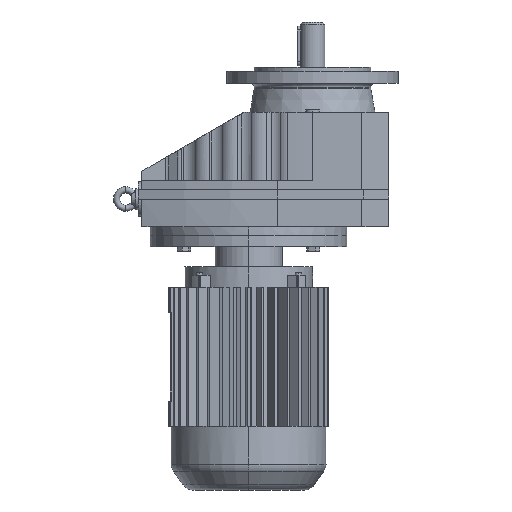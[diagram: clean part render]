
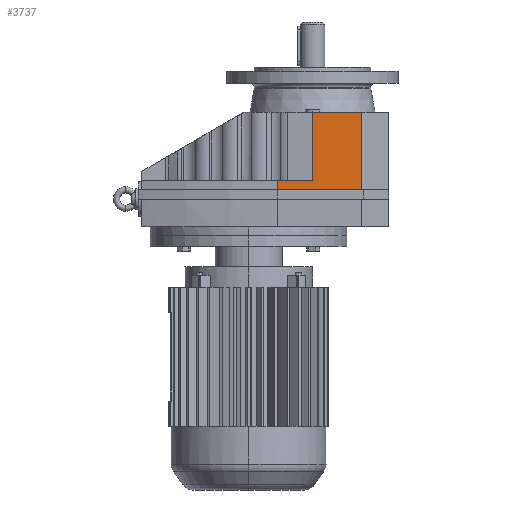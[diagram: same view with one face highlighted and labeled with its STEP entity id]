
A CAD part, left-side view. The second image highlights one B-rep face of the part: STEP entity #3737.
In plain terms, the highlighted planar face has unit normal (-1, 0, 0).
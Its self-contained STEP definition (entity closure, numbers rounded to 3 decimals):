
#59 = PLANE('',#60);
#60 = AXIS2_PLACEMENT_3D('',#61,#62,#63);
#61 = CARTESIAN_POINT('',(-245.684,-23.65,100.5));
#62 = DIRECTION('',(0.,0.,1.));
#63 = DIRECTION('',(1.,0.,0.));
#475 = VERTEX_POINT('',#476);
#476 = CARTESIAN_POINT('',(-78.,-52.,100.5));
#491 = CYLINDRICAL_SURFACE('',#492,221.596);
#492 = AXIS2_PLACEMENT_3D('',#493,#494,#495);
#493 = CARTESIAN_POINT('',(143.596,-52.,44.92));
#494 = DIRECTION('',(0.,0.,1.));
#495 = DIRECTION('',(1.,0.,0.));
#502 = EDGE_CURVE('',#475,#503,#505,.T.);
#503 = VERTEX_POINT('',#504);
#504 = CARTESIAN_POINT('',(-78.,-92.2,100.5));
#505 = SURFACE_CURVE('',#506,(#510,#517),.PCURVE_S1.);
#506 = LINE('',#507,#508);
#507 = CARTESIAN_POINT('',(-78.,-92.2,100.5));
#508 = VECTOR('',#509,1.);
#509 = DIRECTION('',(0.,-1.,0.));
#510 = PCURVE('',#59,#511);
#511 = DEFINITIONAL_REPRESENTATION('',(#512),#516);
#512 = LINE('',#513,#514);
#513 = CARTESIAN_POINT('',(167.684,-68.55));
#514 = VECTOR('',#515,1.);
#515 = DIRECTION('',(0.,-1.));
#516 = ( GEOMETRIC_REPRESENTATION_CONTEXT(2) 
PARAMETRIC_REPRESENTATION_CONTEXT() REPRESENTATION_CONTEXT('2D SPACE',''
  ) );
#517 = PCURVE('',#518,#523);
#518 = PLANE('',#519);
#519 = AXIS2_PLACEMENT_3D('',#520,#521,#522);
#520 = CARTESIAN_POINT('',(-78.,-92.2,100.5));
#521 = DIRECTION('',(1.,0.,0.));
#522 = DIRECTION('',(0.,0.,-1.));
#523 = DEFINITIONAL_REPRESENTATION('',(#524),#528);
#524 = LINE('',#525,#526);
#525 = CARTESIAN_POINT('',(0.,0.));
#526 = VECTOR('',#527,1.);
#527 = DIRECTION('',(0.,-1.));
#528 = ( GEOMETRIC_REPRESENTATION_CONTEXT(2) 
PARAMETRIC_REPRESENTATION_CONTEXT() REPRESENTATION_CONTEXT('2D SPACE',''
  ) );
#546 = PLANE('',#547);
#547 = AXIS2_PLACEMENT_3D('',#548,#549,#550);
#548 = CARTESIAN_POINT('',(-56.2,-114.,100.5));
#549 = DIRECTION('',(0.707,0.707,0.));
#550 = DIRECTION('',(-0.707,0.707,0.));
#1544 = PLANE('',#1545);
#1545 = AXIS2_PLACEMENT_3D('',#1546,#1547,#1548);
#1546 = CARTESIAN_POINT('',(-49.088,67.584,44.92));
#1547 = DIRECTION('',(0.,0.,1.));
#1548 = DIRECTION('',(-1.,0.,0.));
#2205 = PLANE('',#2206);
#2206 = AXIS2_PLACEMENT_3D('',#2207,#2208,#2209);
#2207 = CARTESIAN_POINT('',(-245.684,-23.65,37.376));
#2208 = DIRECTION('',(0.,0.,1.));
#2209 = DIRECTION('',(1.,0.,0.));
#3692 = EDGE_CURVE('',#503,#3693,#3695,.T.);
#3693 = VERTEX_POINT('',#3694);
#3694 = CARTESIAN_POINT('',(-78.,-92.2,37.376));
#3695 = SURFACE_CURVE('',#3696,(#3700,#3707),.PCURVE_S1.);
#3696 = LINE('',#3697,#3698);
#3697 = CARTESIAN_POINT('',(-78.,-92.2,100.5));
#3698 = VECTOR('',#3699,1.);
#3699 = DIRECTION('',(0.,0.,-1.));
#3700 = PCURVE('',#546,#3701);
#3701 = DEFINITIONAL_REPRESENTATION('',(#3702),#3706);
#3702 = LINE('',#3703,#3704);
#3703 = CARTESIAN_POINT('',(30.83,0.));
#3704 = VECTOR('',#3705,1.);
#3705 = DIRECTION('',(0.,-1.));
#3706 = ( GEOMETRIC_REPRESENTATION_CONTEXT(2) 
PARAMETRIC_REPRESENTATION_CONTEXT() REPRESENTATION_CONTEXT('2D SPACE',''
  ) );
#3707 = PCURVE('',#518,#3708);
#3708 = DEFINITIONAL_REPRESENTATION('',(#3709),#3713);
#3709 = LINE('',#3710,#3711);
#3710 = CARTESIAN_POINT('',(0.,0.));
#3711 = VECTOR('',#3712,1.);
#3712 = DIRECTION('',(1.,0.));
#3713 = ( GEOMETRIC_REPRESENTATION_CONTEXT(2) 
PARAMETRIC_REPRESENTATION_CONTEXT() REPRESENTATION_CONTEXT('2D SPACE',''
  ) );
#3737 = ADVANCED_FACE('',(#3738),#518,.F.);
#3738 = FACE_BOUND('',#3739,.T.);
#3739 = EDGE_LOOP('',(#3740,#3769,#3790,#3791,#3792,#3814));
#3740 = ORIENTED_EDGE('',*,*,#3741,.T.);
#3741 = EDGE_CURVE('',#3742,#3744,#3746,.T.);
#3742 = VERTEX_POINT('',#3743);
#3743 = CARTESIAN_POINT('',(-78.,-23.65,44.92));
#3744 = VERTEX_POINT('',#3745);
#3745 = CARTESIAN_POINT('',(-78.,-23.65,37.376));
#3746 = SURFACE_CURVE('',#3747,(#3751,#3758),.PCURVE_S1.);
#3747 = LINE('',#3748,#3749);
#3748 = CARTESIAN_POINT('',(-78.,-23.65,100.5));
#3749 = VECTOR('',#3750,1.);
#3750 = DIRECTION('',(0.,0.,-1.));
#3751 = PCURVE('',#518,#3752);
#3752 = DEFINITIONAL_REPRESENTATION('',(#3753),#3757);
#3753 = LINE('',#3754,#3755);
#3754 = CARTESIAN_POINT('',(0.,68.55));
#3755 = VECTOR('',#3756,1.);
#3756 = DIRECTION('',(1.,0.));
#3757 = ( GEOMETRIC_REPRESENTATION_CONTEXT(2) 
PARAMETRIC_REPRESENTATION_CONTEXT() REPRESENTATION_CONTEXT('2D SPACE',''
  ) );
#3758 = PCURVE('',#3759,#3764);
#3759 = CYLINDRICAL_SURFACE('',#3760,323.684);
#3760 = AXIS2_PLACEMENT_3D('',#3761,#3762,#3763);
#3761 = CARTESIAN_POINT('',(245.684,-23.65,100.5));
#3762 = DIRECTION('',(0.,0.,-1.));
#3763 = DIRECTION('',(-1.,0.,0.));
#3764 = DEFINITIONAL_REPRESENTATION('',(#3765),#3768);
#3765 = B_SPLINE_CURVE_WITH_KNOTS('',1,(#3766,#3767),.UNSPECIFIED.,.F.,
  .F.,(2,2),(55.58,63.124),.PIECEWISE_BEZIER_KNOTS.);
#3766 = CARTESIAN_POINT('',(0.,55.58));
#3767 = CARTESIAN_POINT('',(0.,63.124));
#3768 = ( GEOMETRIC_REPRESENTATION_CONTEXT(2) 
PARAMETRIC_REPRESENTATION_CONTEXT() REPRESENTATION_CONTEXT('2D SPACE',''
  ) );
#3769 = ORIENTED_EDGE('',*,*,#3770,.F.);
#3770 = EDGE_CURVE('',#3693,#3744,#3771,.T.);
#3771 = SURFACE_CURVE('',#3772,(#3776,#3783),.PCURVE_S1.);
#3772 = LINE('',#3773,#3774);
#3773 = CARTESIAN_POINT('',(-78.,-92.2,37.376));
#3774 = VECTOR('',#3775,1.);
#3775 = DIRECTION('',(0.,1.,0.));
#3776 = PCURVE('',#518,#3777);
#3777 = DEFINITIONAL_REPRESENTATION('',(#3778),#3782);
#3778 = LINE('',#3779,#3780);
#3779 = CARTESIAN_POINT('',(63.124,0.));
#3780 = VECTOR('',#3781,1.);
#3781 = DIRECTION('',(0.,1.));
#3782 = ( GEOMETRIC_REPRESENTATION_CONTEXT(2) 
PARAMETRIC_REPRESENTATION_CONTEXT() REPRESENTATION_CONTEXT('2D SPACE',''
  ) );
#3783 = PCURVE('',#2205,#3784);
#3784 = DEFINITIONAL_REPRESENTATION('',(#3785),#3789);
#3785 = LINE('',#3786,#3787);
#3786 = CARTESIAN_POINT('',(167.684,-68.55));
#3787 = VECTOR('',#3788,1.);
#3788 = DIRECTION('',(0.,1.));
#3789 = ( GEOMETRIC_REPRESENTATION_CONTEXT(2) 
PARAMETRIC_REPRESENTATION_CONTEXT() REPRESENTATION_CONTEXT('2D SPACE',''
  ) );
#3790 = ORIENTED_EDGE('',*,*,#3692,.F.);
#3791 = ORIENTED_EDGE('',*,*,#502,.F.);
#3792 = ORIENTED_EDGE('',*,*,#3793,.F.);
#3793 = EDGE_CURVE('',#3794,#475,#3796,.T.);
#3794 = VERTEX_POINT('',#3795);
#3795 = CARTESIAN_POINT('',(-78.,-52.,44.92));
#3796 = SURFACE_CURVE('',#3797,(#3801,#3808),.PCURVE_S1.);
#3797 = LINE('',#3798,#3799);
#3798 = CARTESIAN_POINT('',(-78.,-52.,44.92));
#3799 = VECTOR('',#3800,1.);
#3800 = DIRECTION('',(0.,0.,1.));
#3801 = PCURVE('',#518,#3802);
#3802 = DEFINITIONAL_REPRESENTATION('',(#3803),#3807);
#3803 = LINE('',#3804,#3805);
#3804 = CARTESIAN_POINT('',(55.58,40.2));
#3805 = VECTOR('',#3806,1.);
#3806 = DIRECTION('',(-1.,0.));
#3807 = ( GEOMETRIC_REPRESENTATION_CONTEXT(2) 
PARAMETRIC_REPRESENTATION_CONTEXT() REPRESENTATION_CONTEXT('2D SPACE',''
  ) );
#3808 = PCURVE('',#491,#3809);
#3809 = DEFINITIONAL_REPRESENTATION('',(#3810),#3813);
#3810 = B_SPLINE_CURVE_WITH_KNOTS('',1,(#3811,#3812),.UNSPECIFIED.,.F.,
  .F.,(2,2),(0.,55.58),.PIECEWISE_BEZIER_KNOTS.);
#3811 = CARTESIAN_POINT('',(3.142,0.));
#3812 = CARTESIAN_POINT('',(3.142,55.58));
#3813 = ( GEOMETRIC_REPRESENTATION_CONTEXT(2) 
PARAMETRIC_REPRESENTATION_CONTEXT() REPRESENTATION_CONTEXT('2D SPACE',''
  ) );
#3814 = ORIENTED_EDGE('',*,*,#3815,.F.);
#3815 = EDGE_CURVE('',#3742,#3794,#3816,.T.);
#3816 = SURFACE_CURVE('',#3817,(#3821,#3828),.PCURVE_S1.);
#3817 = LINE('',#3818,#3819);
#3818 = CARTESIAN_POINT('',(-78.,-92.2,44.92));
#3819 = VECTOR('',#3820,1.);
#3820 = DIRECTION('',(0.,-1.,0.));
#3821 = PCURVE('',#518,#3822);
#3822 = DEFINITIONAL_REPRESENTATION('',(#3823),#3827);
#3823 = LINE('',#3824,#3825);
#3824 = CARTESIAN_POINT('',(55.58,0.));
#3825 = VECTOR('',#3826,1.);
#3826 = DIRECTION('',(0.,-1.));
#3827 = ( GEOMETRIC_REPRESENTATION_CONTEXT(2) 
PARAMETRIC_REPRESENTATION_CONTEXT() REPRESENTATION_CONTEXT('2D SPACE',''
  ) );
#3828 = PCURVE('',#1544,#3829);
#3829 = DEFINITIONAL_REPRESENTATION('',(#3830),#3834);
#3830 = LINE('',#3831,#3832);
#3831 = CARTESIAN_POINT('',(28.913,159.784));
#3832 = VECTOR('',#3833,1.);
#3833 = DIRECTION('',(0.,1.));
#3834 = ( GEOMETRIC_REPRESENTATION_CONTEXT(2) 
PARAMETRIC_REPRESENTATION_CONTEXT() REPRESENTATION_CONTEXT('2D SPACE',''
  ) );
